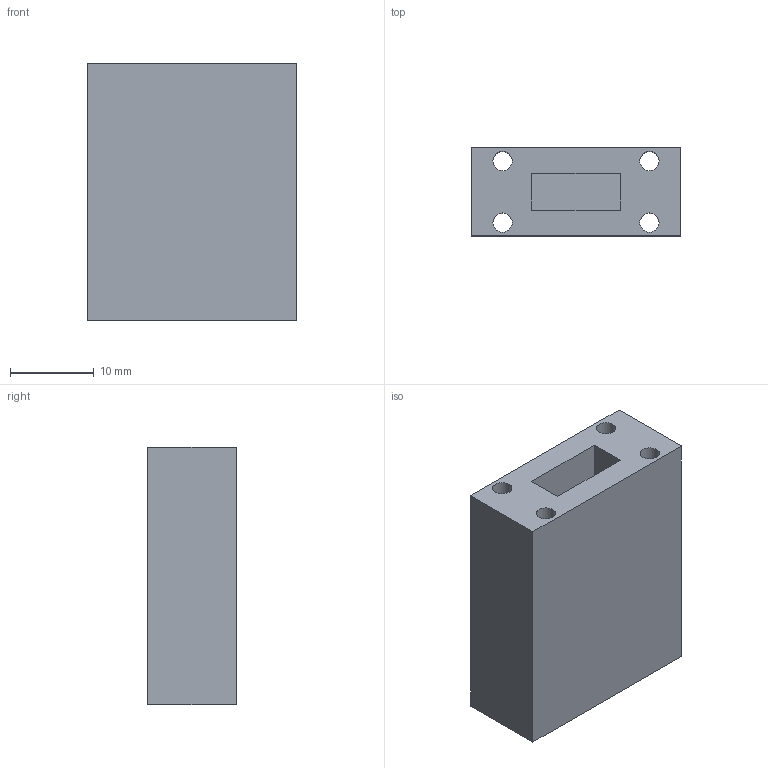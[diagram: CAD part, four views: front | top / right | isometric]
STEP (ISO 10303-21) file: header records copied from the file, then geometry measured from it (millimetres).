
FILE_DESCRIPTION(('Mechanical CAD reference from nasji.com'),'2;1');
FILE_NAME('NASJI.step','',(''),(''),'','NASJI distribution','');
FILE_SCHEMA(('AUTOMOTIVE_DESIGN { 1 0 10303 214 1 1 1 1 }'));
Length unit declared in the file: millimetre
Products named in the file (1): Open CASCADE STEP translator 7.8 17
Bounding box: 25 x 10.5 x 30.7 mm (x, y, z)
Volume: 6914.2 mm3; surface area: 3966.8 mm2
Topology: 1 solids, 1 shells, 15 faces, 36 edges, 24 vertices
Faces by surface type: plane 11, cylinder 4
Full cylindrical faces by diameter (mm): 2.3 x4
Entity records: 956 total; most frequent: CARTESIAN_POINT 196, DIRECTION 140, LINE 92, VECTOR 92, ORIENTED_EDGE 72, PCURVE 72, DEFINITIONAL_REPRESENTATION 72, EDGE_CURVE 36
